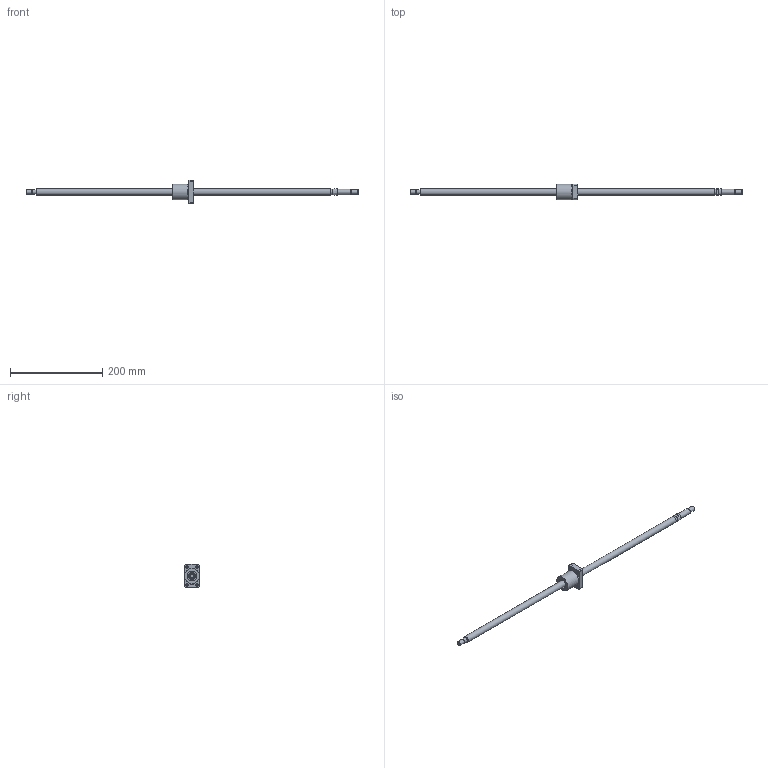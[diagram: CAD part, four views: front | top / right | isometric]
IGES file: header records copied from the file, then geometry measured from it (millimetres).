
Start section: Data from Parasolid IGES Translator 26.0.171, Copyright(c) 2006 Siemens PLM Software. All Rights Reserved.
Global section: file name: BNK1408-2.5RRG0+721LC5Y(342.50).igs; native system: By Siemens PLM Incorporated; preprocessor: XPlus GENERIC/IGES 26.0.171; author: Noname; organization: Noname; date: 20240709.091756; units: millimetre
Bounding box: 721 x 34 x 50 mm (x, y, z)
Surface area: 43357.5 mm2 (no closed solid volume)
Topology: 0 solids, 0 shells, 74 faces, 333 edges, 292 vertices
Faces by surface type: revolution 46, extrusion 28
